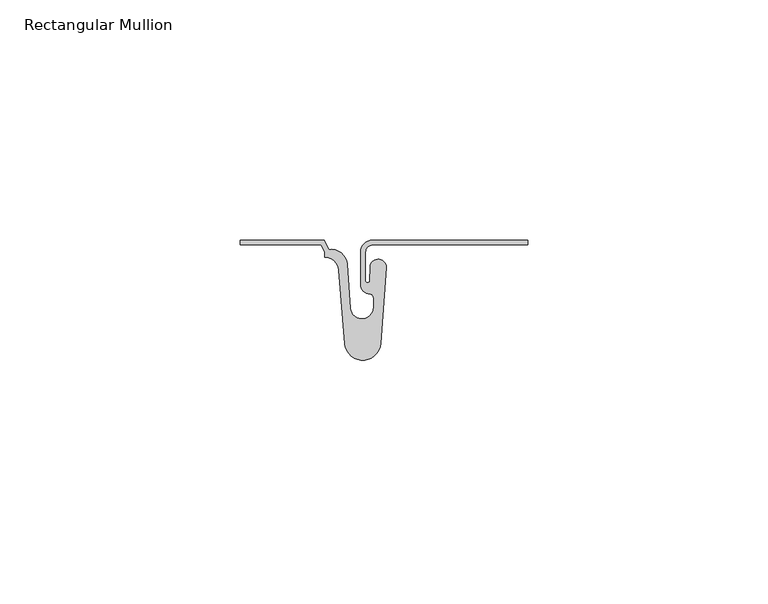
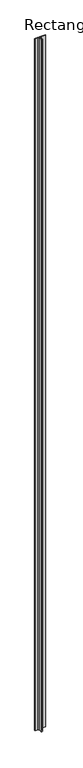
"""IFC4 building model written with IfcOpenShell, lengths in millimetres: member geometry, Rectangular Mullion : Stratco_Hiland_Tray Nailstrip_25mm Rib_Underlap Tray Starter."""

from ifc_helpers import new_model, si_unit, point, frame, frame_2d, origin, place, context, project, spatial, polyline, circle_curve, trimmed, segment, composite_curve, outline, extrude, source, transform, mapped, element, save


def rectangular_mullion_0d73e38d(model_context):
    return source(origin(), model_context, "Body", "SweptSolid", [
        extrude(outline(composite_curve([segment(polyline([(-29.500488, -5.6708248), (-30.6318313, -21.4778353)]), True, "CONTINUOUS"), segment(trimmed(circle_curve(frame_2d((-34.3832645, -21.2093368)), 3.7610294), [point((-30.6318313, -21.4778353))], [point((-38.1326964, -21.504468))], False, "CARTESIAN"), True, "CONTINUOUS"), segment(polyline([(-38.1326964, -21.504468), (-39.3384383, -6.1863733)]), True, "CONTINUOUS"), segment(trimmed(circle_curve(frame_2d((-42.3220003, -6.4999938)), 3.0), [point((-39.3384383, -6.1863733))], [point((-42.3280845, -3.5))], True, "CARTESIAN"), True, "CONTINUOUS"), segment(polyline([(-42.3280845, -3.5), (-42.3280845, -2.5021141), (-43.0095342, -0.9715531), (-59.8932409, -0.9715531), (-59.8932409, 0.0284469), (-42.3601266, 0.0284469), (-41.4885774, -1.9290846)]), True, "CONTINUOUS"), segment(trimmed(circle_curve(frame_2d((-40.9491206, -5.2176529)), 3.3325208), [point((-41.4885774, -1.9290846))], [point((-37.62526, -4.9775568))], False, "CARTESIAN"), True, "CONTINUOUS"), segment(polyline([(-37.62526, -4.9775568), (-36.9648938, -14.1195889)]), True, "CONTINUOUS"), segment(trimmed(circle_curve(frame_2d((-34.54656, -13.9449093)), 2.4246342), [point((-36.9648938, -14.1195889))], [point((-32.1219258, -13.9449093))], True, "CARTESIAN"), True, "CONTINUOUS"), segment(polyline([(-32.1219258, -13.9449093), (-32.1219258, -12.0272941)]), True, "CONTINUOUS"), segment(trimmed(circle_curve(frame_2d((-33.0223261, -12.0272941)), 0.9004003), [point((-32.1219258, -12.0272941))], [point((-32.8337382, -11.1468651))], True, "CARTESIAN"), True, "CONTINUOUS"), segment(trimmed(circle_curve(frame_2d((-32.8879394, -9.2101777)), 1.9374457), [point((-32.8337382, -11.1468651))], [point((-34.8253851, -9.2101777))], False, "CARTESIAN"), True, "CONTINUOUS"), segment(polyline([(-34.8253851, -9.2101777), (-34.8253851, -2.4688537)]), True, "CONTINUOUS"), segment(trimmed(circle_curve(frame_2d((-32.3280845, -2.4688537)), 2.4973006), [point((-34.8253851, -2.4688537))], [point((-32.3280845, 0.0284469))], False, "CARTESIAN"), True, "CONTINUOUS"), segment(polyline([(-32.3280845, 0.0284469), (0.0, 0.0284469), (0.0, -0.9715531), (-32.3280845, -0.9715531)]), True, "CONTINUOUS"), segment(trimmed(circle_curve(frame_2d((-32.3280844, -2.4686698)), 1.4971168), [point((-32.3280845, -0.9715531))], [point((-33.8252012, -2.4686698))], True, "CARTESIAN"), True, "CONTINUOUS"), segment(polyline([(-33.8252012, -2.4686698), (-33.8252012, -8.4147659)]), True, "CONTINUOUS"), segment(trimmed(circle_curve(frame_2d((-33.3726014, -8.4147659)), 0.4525998), [point((-33.8252012, -8.4147659))], [point((-32.9202138, -8.428624))], True, "CARTESIAN"), True, "CONTINUOUS"), segment(polyline([(-32.9202138, -8.428624), (-32.8327337, -5.5692832)]), True, "CONTINUOUS"), segment(trimmed(circle_curve(frame_2d((-31.1666171, -5.620257)), 1.6668962), [point((-32.8327337, -5.5692832))], [point((-29.500488, -5.6708248))], False, "CARTESIAN"), True, "CONTINUOUS")], self_intersect=False)), frame((0.0, 0.0, -4000.0), z_axis=(0.0, 0.0, 1.0), x_axis=(1.0, 0.0, 0.0)), (0.0, 0.0, 1.0), 4000.0),
    ])


if __name__ == "__main__":
    model = new_model("IFC4")
    model_context = context("Model", 3, world=origin())
    ifc_project = project(units=[si_unit("LENGTHUNIT", "METRE", prefix="MILLI")], contexts=[model_context])
    site = spatial("IfcSite", under=ifc_project)
    building = spatial("IfcBuilding", under=site)
    placement = place(None, origin())
    rectangular_mullion_shape = rectangular_mullion_0d73e38d(model_context)
    element("IfcMember", 1, ObjectType="Rectangular Mullion : Stratco_Hiland_Tray Nailstrip_25mm Rib_Underlap Tray Starter", at=placement, inside=building, context=model_context, shape_type="MappedRepresentation", body=[
        mapped(rectangular_mullion_shape, transform((0.0, 0.0, 0.0), x_axis=(1.0, 0.0, 0.0), y_axis=(0.0, 1.0, 0.0), z_axis=(0.0, 0.0, 1.0))),
    ])
    save(model, "model.ifc")
